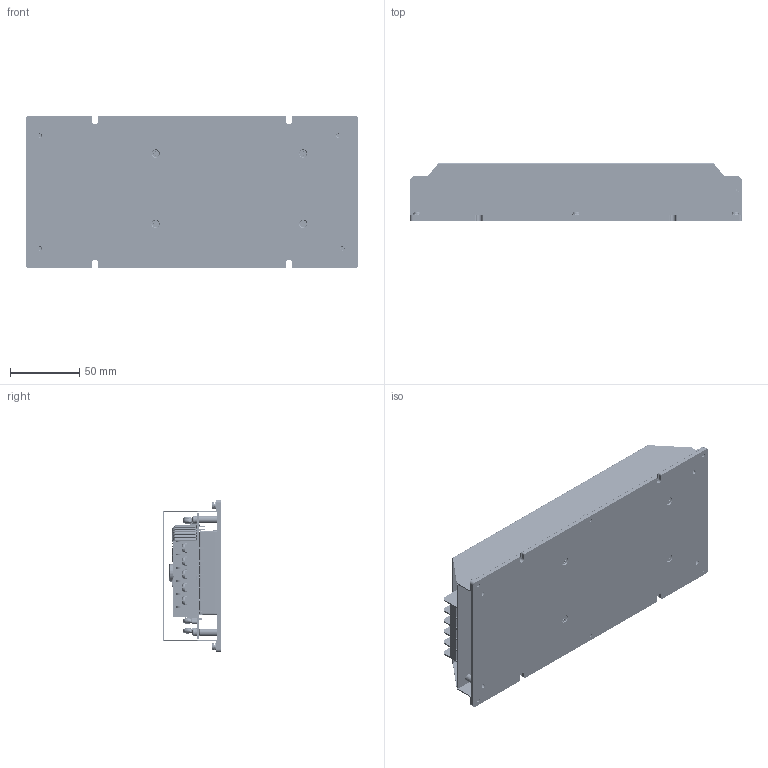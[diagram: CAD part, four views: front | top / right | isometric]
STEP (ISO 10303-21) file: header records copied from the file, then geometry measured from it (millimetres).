
FILE_DESCRIPTION (( 'STEP AP203' ), '1' );
FILE_NAME ('CFB600W-110SXX-CFMD¦¨«~¹Ï2023.11.13.STEP', '2023-11-13T08:05:57', ( '' ), ( '' ), 'SwSTEP 2.0', 'SolidWorks 2020', '' );
FILE_SCHEMA (( 'CONFIG_CONTROL_DESIGN' ));
Products named in the file (1): CFB600W-110SXX-CFMD成品圖2023.11.13
Bounding box: 240 x 42 x 110 mm (x, y, z)
Volume: 286752.5 mm3; surface area: 215920.6 mm2
Topology: 17 solids, 37 shells, 4330 faces, 11975 edges, 7783 vertices
Faces by surface type: plane 2667, cylinder 760, bspline 487, torus 243, cone 166, sphere 7
Full cylindrical faces by diameter (mm): 0.6 x18, 0.8 x4, 0.936 x112, 1 x34, 1.2 x6, 1.4 x8, 1.5 x2, 2 x16, 2.4 x8, 2.5 x6, 2.8 x44, 2.846 x8, 2.997 x1, 3.2 x21, 3.25 x1, 3.5 x12, 4.5 x4, 5 x8, 5.06 x4, 5.2 x5, 5.246 x8, 5.3 x8, 5.8 x8, 6 x3, 6.3 x11, 10.2 x1, 12 x1, 12.2 x1, 12.7 x1, 12.8 x1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
Entity records: 195178 total; most frequent: CARTESIAN_POINT 95904, ORIENTED_EDGE 21676, DIRECTION 17838, EDGE_CURVE 10838, VERTEX_POINT 7348, VECTOR 6654, LINE 6654, AXIS2_PLACEMENT_3D 5592
